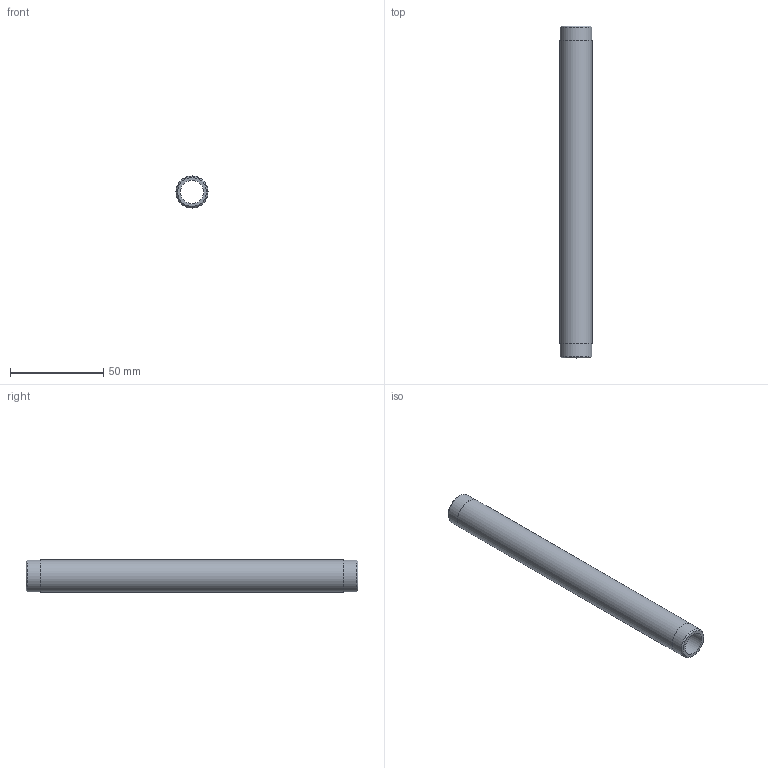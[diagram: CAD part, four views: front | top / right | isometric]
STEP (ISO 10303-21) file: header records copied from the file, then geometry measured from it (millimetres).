
FILE_DESCRIPTION(/* description */ (''),/* implementation_level */ '2;1');
FILE_NAME(/* name */ 'C:/Users/drich/Desktop/SSPN38-7 v1.step',/* time_stamp */ '2020-01-04T13:58:05-06:00',/* author */ (''),/* organization */ (''),/* preprocessor_version */ 'ST-DEVELOPER v18',/* originating_system */ 'Autodesk Translation Framework v8.12.0.6',/* authorisation */ '');
FILE_SCHEMA (('AUTOMOTIVE_DESIGN { 1 0 10303 214 3 1 1 }'));
Length unit declared in the file: inch
Products named in the file (1): SSPN38-7
Bounding box: 17.14 x 177.8 x 17.14 mm (x, y, z)
Volume: 19100.4 mm3; surface area: 16734.9 mm2
Topology: 1 solids, 1 shells, 10 faces, 24 edges, 18 vertices
Faces by surface type: cylinder 4, plane 4, cone 2
Full cylindrical faces by diameter (mm): 12.522 x1, 17.094 x2, 17.145 x1
Entity records: 353 total; most frequent: DIRECTION 64, CARTESIAN_POINT 53, ORIENTED_EDGE 48, AXIS2_PLACEMENT_3D 29, EDGE_CURVE 24, CIRCLE 18, VERTEX_POINT 18, EDGE_LOOP 14
